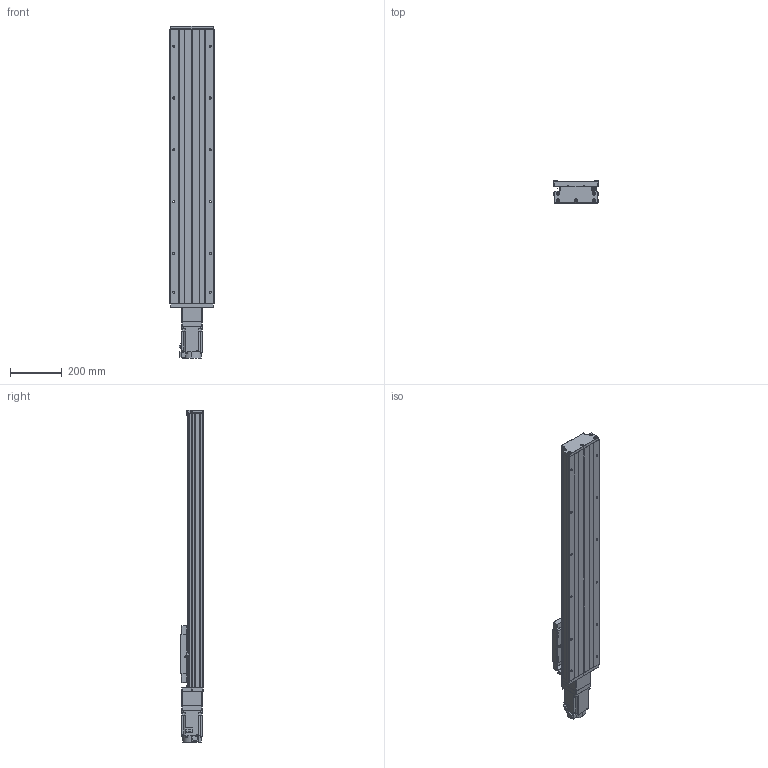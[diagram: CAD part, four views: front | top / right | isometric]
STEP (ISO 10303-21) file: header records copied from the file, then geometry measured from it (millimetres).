
FILE_DESCRIPTION (( 'STEP AP203' ), '1' );
FILE_NAME ('GTH17-800-BC-M75-C4.step', '2023-06-30T11:23:04', ( '微软用户' ), ( '微软中国' ), 'SwSTEP 2.0', 'SolidWorks 2020', '' );
FILE_SCHEMA (( 'CONFIG_CONTROL_DESIGN' ));
Length unit declared in the file: millimetre
Products named in the file (20): GTH17-004; GBT77-2000 M3×3; GTH17-013; GTH17-005; GBT 70.1-M6¡Á20_M6¡Á20; GTH17-027-1; GB1155-6X6; GTH17-031; HG-KN73J-S100; CTHA60-017; GBT 70.2-M3¡Á5_M3¡Á6; GTH17-800-BC-M75-C4; EE_SX911P_R; す晦芛蹟隊 M3℅5; GTH17-001_800; CTHA60-016; GBT 70.3-M3℅8; GTH17-002_GTH17-002; GBT 70.1-M3℅5; GTH17-006-2_M75
Assembly tree (57 placements, depth 2):
  GTH17-800-BC-M75-C4
    GTH17-001_800
    GTH17-002_GTH17-002
    GTH17-004
    GTH17-005
    GB1155-6X6  x2
    CTHA60-017  x3
    EE_SX911P_R  x3
    CTHA60-016  x2
    GBT 70.1-M3℅5  x6
    GBT77-2000 M3×3  x6
    GBT 70.1-M6¡Á20_M6¡Á20  x10
    GTH17-031
    GBT 70.2-M3¡Á5_M3¡Á6  x8
    す晦芛蹟隊 M3℅5  x6
    GBT 70.3-M3℅8  x2
    GTH17-006-2_M75
    GTH17-013
    GTH17-027-1
    HG-KN73J-S100
Bounding box: 171 x 87 x 1281.2 mm (x, y, z)
Volume: 9656294.1 mm3; surface area: 1240371.3 mm2
Topology: 60 solids, 60 shells, 2414 faces, 5773 edges, 3579 vertices
Faces by surface type: plane 1305, cylinder 662, cone 287, torus 120, sphere 20, bspline 20
Entity records: 45145 total; most frequent: CARTESIAN_POINT 10427, DIRECTION 6537, ORIENTED_EDGE 6462, EDGE_CURVE 3231, AXIS2_PLACEMENT_3D 2223, VECTOR 2091, LINE 2091, VERTEX_POINT 2047
